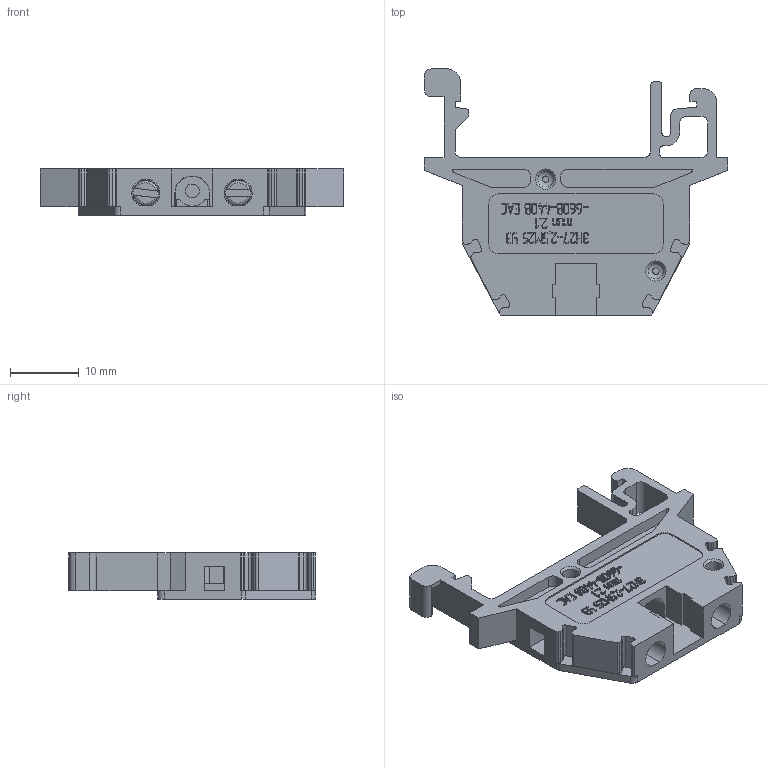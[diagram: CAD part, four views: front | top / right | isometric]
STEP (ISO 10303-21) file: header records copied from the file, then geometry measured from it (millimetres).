
FILE_DESCRIPTION(('STEP AP214'), '1');
FILE_NAME('Çàæèì ÇÍ27-2,5Ì25 òèï 2.1 ñ êðûøêîé ÊÒ8', '2023-07-31T13:06:31', (''), (''), 'ASCON STEP Converter 1.6', 'ASCON Math Kernel', '');
FILE_SCHEMA(('AUTOMOTIVE_DESIGN { 1 0 10303 214 3 1 1}'));
Length unit declared in the file: millimetre
Bounding box: 44 x 35.74 x 6.7 mm (x, y, z)
Volume: 3947.8 mm3; surface area: 5130.2 mm2
Topology: 1 solids, 1 shells, 2359 faces, 6922 edges, 4602 vertices
Faces by surface type: plane 1592, cylinder 743, cone 16, torus 8
Full cylindrical faces by diameter (mm): 2.013 x1, 2.6 x2, 3 x2
Entity records: 97977 total; most frequent: CARTESIAN_POINT 14936, ORIENTED_EDGE 13814, DIRECTION 13092, EDGE_CURVE 6907, LINE 5322, VECTOR 5322, VERTEX_POINT 4602, AXIS2_PLACEMENT_3D 3885
